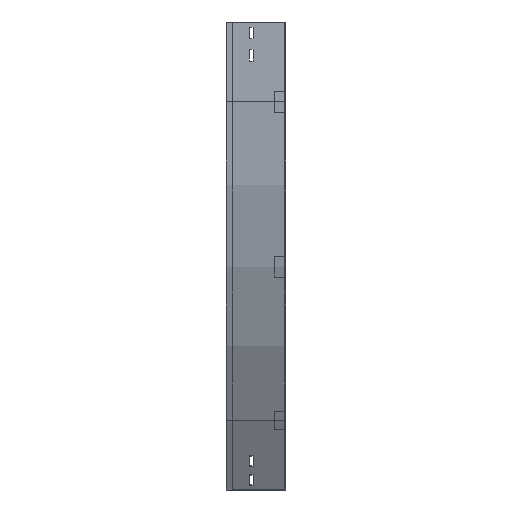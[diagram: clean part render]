
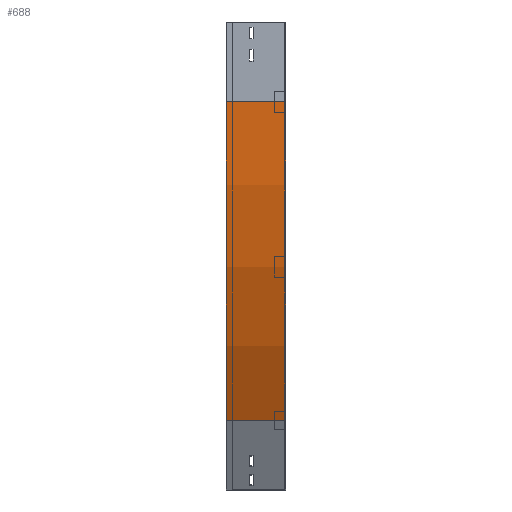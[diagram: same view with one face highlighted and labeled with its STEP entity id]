
A CAD part, left-side view. The second image highlights one B-rep face of the part: STEP entity #688.
In plain terms, the highlighted cylindrical face has radius 1200 mm (diameter 2400 mm), a partial arc.
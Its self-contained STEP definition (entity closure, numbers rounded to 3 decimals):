
#91 = VECTOR ( 'NONE', #3426, 1000. ) ;
#110 = DIRECTION ( 'NONE',  ( 0., -1., 0. ) ) ;
#207 = EDGE_CURVE ( 'NONE', #3282, #1982, #2103, .T. ) ;
#224 = DIRECTION ( 'NONE',  ( -1., 0., 0. ) ) ;
#248 = CARTESIAN_POINT ( 'NONE',  ( 1200., 112.5, -150. ) ) ;
#410 = CARTESIAN_POINT ( 'NONE',  ( 0., 0., -150. ) ) ;
#459 = VECTOR ( 'NONE', #3232, 1000. ) ;
#526 = EDGE_CURVE ( 'NONE', #663, #3130, #790, .T. ) ;
#555 = ORIENTED_EDGE ( 'NONE', *, *, #526, .T. ) ;
#624 = CARTESIAN_POINT ( 'NONE',  ( 0., 112.5, -150. ) ) ;
#663 = VERTEX_POINT ( 'NONE', #624 ) ;
#688 = ADVANCED_FACE ( 'NONE', ( #2091 ), #1271, .T. ) ;
#790 = CIRCLE ( 'NONE', #3597, 1200. ) ;
#819 = CARTESIAN_POINT ( 'NONE',  ( 160.77, 0., -750. ) ) ;
#1069 = ORIENTED_EDGE ( 'NONE', *, *, #207, .F. ) ;
#1271 = CYLINDRICAL_SURFACE ( 'NONE', #1610, 1200. ) ;
#1441 = DIRECTION ( 'NONE',  ( 0., -1., 0. ) ) ;
#1481 = AXIS2_PLACEMENT_3D ( 'NONE', #3429, #2568, #224 ) ;
#1610 = AXIS2_PLACEMENT_3D ( 'NONE', #1794, #110, #3263 ) ;
#1665 = LINE ( 'NONE', #2271, #91 ) ;
#1794 = CARTESIAN_POINT ( 'NONE',  ( 1200., 0., -150. ) ) ;
#1889 = CARTESIAN_POINT ( 'NONE',  ( 160.77, 0., -750. ) ) ;
#1982 = VERTEX_POINT ( 'NONE', #1889 ) ;
#2002 = DIRECTION ( 'NONE',  ( -1., 0., 0. ) ) ;
#2091 = FACE_OUTER_BOUND ( 'NONE', #2095, .T. ) ;
#2095 = EDGE_LOOP ( 'NONE', ( #1069, #3189, #555, #2248 ) ) ;
#2103 = CIRCLE ( 'NONE', #1481, 1200. ) ;
#2248 = ORIENTED_EDGE ( 'NONE', *, *, #2923, .T. ) ;
#2271 = CARTESIAN_POINT ( 'NONE',  ( 0., 0., -150. ) ) ;
#2447 = CARTESIAN_POINT ( 'NONE',  ( 160.77, 112.5, -750. ) ) ;
#2568 = DIRECTION ( 'NONE',  ( 0., -1., 0. ) ) ;
#2876 = EDGE_CURVE ( 'NONE', #663, #3282, #1665, .T. ) ;
#2919 = LINE ( 'NONE', #819, #459 ) ;
#2923 = EDGE_CURVE ( 'NONE', #3130, #1982, #2919, .T. ) ;
#3130 = VERTEX_POINT ( 'NONE', #2447 ) ;
#3189 = ORIENTED_EDGE ( 'NONE', *, *, #2876, .F. ) ;
#3232 = DIRECTION ( 'NONE',  ( 0., -1., 0. ) ) ;
#3263 = DIRECTION ( 'NONE',  ( 0., 0., -1. ) ) ;
#3282 = VERTEX_POINT ( 'NONE', #410 ) ;
#3426 = DIRECTION ( 'NONE',  ( 0., -1., 0. ) ) ;
#3429 = CARTESIAN_POINT ( 'NONE',  ( 1200., 0., -150. ) ) ;
#3597 = AXIS2_PLACEMENT_3D ( 'NONE', #248, #1441, #2002 ) ;
